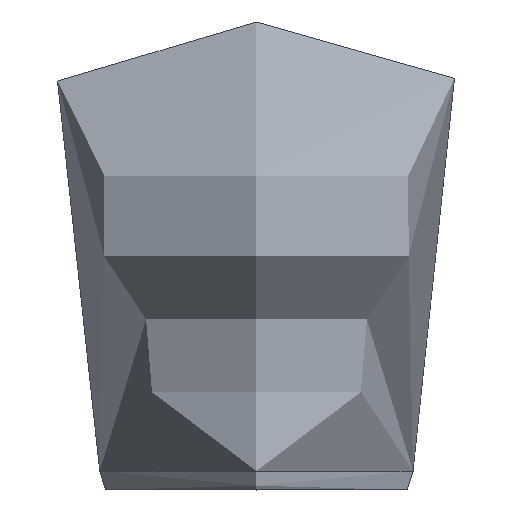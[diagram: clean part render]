
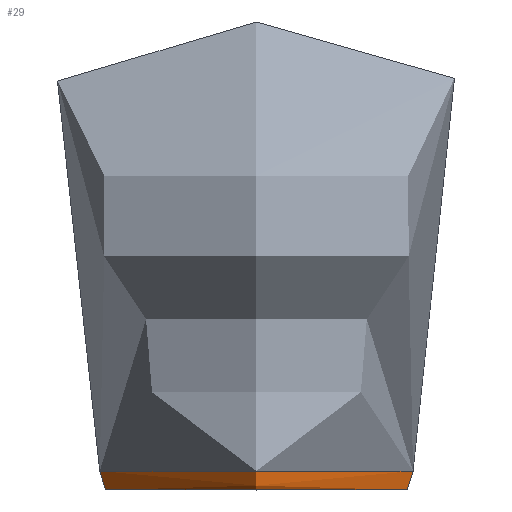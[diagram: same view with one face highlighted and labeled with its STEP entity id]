
A CAD part, front view. The second image highlights one B-rep face of the part: STEP entity #29.
In plain terms, the highlighted free-form (B-spline) face has degree [3, 2] with [4, 9] control points.
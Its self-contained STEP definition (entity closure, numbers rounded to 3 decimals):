
#29=ADVANCED_FACE('',(#37),#117,.T.);
#37=FACE_OUTER_BOUND('',#45,.T.);
#45=EDGE_LOOP('',(#66,#67,#68,#69));
#66=ORIENTED_EDGE('',*,*,#88,.F.);
#67=ORIENTED_EDGE('',*,*,#76,.T.);
#68=ORIENTED_EDGE('',*,*,#89,.F.);
#69=ORIENTED_EDGE('',*,*,#77,.T.);
#76=EDGE_CURVE('',#106,#104,#99,.T.);
#77=EDGE_CURVE('',#105,#107,#100,.T.);
#88=EDGE_CURVE('',#106,#107,#97,.T.);
#89=EDGE_CURVE('',#105,#104,#98,.T.);
#97=(
BOUNDED_CURVE()
B_SPLINE_CURVE(2,(#1540,#1541,#1542,#1543,#1544),.UNSPECIFIED.,.F.,.F.)
B_SPLINE_CURVE_WITH_KNOTS((3,2,3),(-127.179,-63.59,
0.),.UNSPECIFIED.)
CURVE()
GEOMETRIC_REPRESENTATION_ITEM()
RATIONAL_B_SPLINE_CURVE((1.,0.707,1.,0.707,1.))
REPRESENTATION_ITEM('')
);
#98=(
BOUNDED_CURVE()
B_SPLINE_CURVE(2,(#1545,#1546,#1547,#1548,#1549),.UNSPECIFIED.,.F.,.F.)
B_SPLINE_CURVE_WITH_KNOTS((3,2,3),(-122.516,-61.258,
0.),.UNSPECIFIED.)
CURVE()
GEOMETRIC_REPRESENTATION_ITEM()
RATIONAL_B_SPLINE_CURVE((1.,0.707,1.,0.707,1.))
REPRESENTATION_ITEM('')
);
#99=B_SPLINE_CURVE_WITH_KNOTS('',3,(#1306,#1307,#1308,#1309),
 .UNSPECIFIED.,.F.,.F.,(4,4),(-4.404,0.),.UNSPECIFIED.);
#100=B_SPLINE_CURVE_WITH_KNOTS('',3,(#1310,#1311,#1312,#1313),
 .UNSPECIFIED.,.F.,.F.,(4,4),(-4.404,0.),.UNSPECIFIED.);
#104=VERTEX_POINT('',#1298);
#105=VERTEX_POINT('',#1299);
#106=VERTEX_POINT('',#1300);
#107=VERTEX_POINT('',#1301);
#117=(
BOUNDED_SURFACE()
B_SPLINE_SURFACE(3,2,((#902,#903,#904,#905,#906,#907,#908,#909,#910),(#911,
#912,#913,#914,#915,#916,#917,#918,#919),(#920,#921,#922,#923,#924,#925,
#926,#927,#928),(#929,#930,#931,#932,#933,#934,#935,#936,#937)),
 .UNSPECIFIED.,.F.,.F.,.F.)
B_SPLINE_SURFACE_WITH_KNOTS((4,4),(3,2,2,2,3),(0.,1.),
(0.,49.307,98.615,147.922,197.229),
 .UNSPECIFIED.)
GEOMETRIC_REPRESENTATION_ITEM()
RATIONAL_B_SPLINE_SURFACE(((1.,0.707,1.,0.707,1.,
0.707,1.,0.707,1.),(1.,0.707,1.,0.707,
1.,0.707,1.,0.707,1.),(1.,0.707,1.,
0.707,1.,0.707,1.,0.707,1.),(1.,0.707,
1.,0.707,1.,0.707,1.,0.707,1.)))
REPRESENTATION_ITEM('')
SURFACE()
);
#902=CARTESIAN_POINT('',(0.,45.358,0.159));
#903=CARTESIAN_POINT('',(30.629,45.358,0.159));
#904=CARTESIAN_POINT('',(30.629,14.729,0.159));
#905=CARTESIAN_POINT('',(30.629,-15.9,0.159));
#906=CARTESIAN_POINT('',(0.,-15.9,0.159));
#907=CARTESIAN_POINT('',(-30.629,-15.9,0.159));
#908=CARTESIAN_POINT('',(-30.629,14.729,0.159));
#909=CARTESIAN_POINT('',(-30.629,45.358,0.159));
#910=CARTESIAN_POINT('',(0.,45.358,0.159));
#911=CARTESIAN_POINT('',(0.,46.306,0.836));
#912=CARTESIAN_POINT('',(31.576,46.306,0.836));
#913=CARTESIAN_POINT('',(31.576,14.729,0.836));
#914=CARTESIAN_POINT('',(31.576,-16.847,0.836));
#915=CARTESIAN_POINT('',(0.,-16.847,0.836));
#916=CARTESIAN_POINT('',(-31.576,-16.847,0.836));
#917=CARTESIAN_POINT('',(-31.576,14.729,0.836));
#918=CARTESIAN_POINT('',(-31.576,46.306,0.836));
#919=CARTESIAN_POINT('',(0.,46.306,0.836));
#920=CARTESIAN_POINT('',(0.,46.694,2.119));
#921=CARTESIAN_POINT('',(31.965,46.694,2.119));
#922=CARTESIAN_POINT('',(31.965,14.729,2.119));
#923=CARTESIAN_POINT('',(31.965,-17.235,2.119));
#924=CARTESIAN_POINT('',(0.,-17.235,2.119));
#925=CARTESIAN_POINT('',(-31.965,-17.235,2.119));
#926=CARTESIAN_POINT('',(-31.965,14.729,2.119));
#927=CARTESIAN_POINT('',(-31.965,46.694,2.119));
#928=CARTESIAN_POINT('',(0.,46.694,2.119));
#929=CARTESIAN_POINT('',(0.,46.524,4.01));
#930=CARTESIAN_POINT('',(31.795,46.524,4.01));
#931=CARTESIAN_POINT('',(31.795,14.729,4.01));
#932=CARTESIAN_POINT('',(31.795,-17.065,4.01));
#933=CARTESIAN_POINT('',(0.,-17.065,4.01));
#934=CARTESIAN_POINT('',(-31.795,-17.065,4.01));
#935=CARTESIAN_POINT('',(-31.795,14.729,4.01));
#936=CARTESIAN_POINT('',(-31.795,46.524,4.01));
#937=CARTESIAN_POINT('',(0.,46.524,4.01));
#1298=CARTESIAN_POINT('',(-30.629,14.729,0.159));
#1299=CARTESIAN_POINT('',(30.629,14.729,0.159));
#1300=CARTESIAN_POINT('',(-31.795,14.729,4.01));
#1301=CARTESIAN_POINT('',(31.795,14.729,4.01));
#1306=CARTESIAN_POINT('',(-31.795,14.729,4.01));
#1307=CARTESIAN_POINT('',(-31.965,14.729,2.119));
#1308=CARTESIAN_POINT('',(-31.576,14.729,0.836));
#1309=CARTESIAN_POINT('',(-30.629,14.729,0.159));
#1310=CARTESIAN_POINT('',(30.629,14.729,0.159));
#1311=CARTESIAN_POINT('',(31.576,14.729,0.836));
#1312=CARTESIAN_POINT('',(31.965,14.729,2.119));
#1313=CARTESIAN_POINT('',(31.795,14.729,4.01));
#1540=CARTESIAN_POINT('',(-31.795,14.729,4.01));
#1541=CARTESIAN_POINT('',(-31.795,-17.065,4.01));
#1542=CARTESIAN_POINT('',(0.,-17.065,4.01));
#1543=CARTESIAN_POINT('',(31.795,-17.065,4.01));
#1544=CARTESIAN_POINT('',(31.795,14.729,4.01));
#1545=CARTESIAN_POINT('',(30.629,14.729,0.159));
#1546=CARTESIAN_POINT('',(30.629,-15.9,0.159));
#1547=CARTESIAN_POINT('',(0.,-15.9,0.159));
#1548=CARTESIAN_POINT('',(-30.629,-15.9,0.159));
#1549=CARTESIAN_POINT('',(-30.629,14.729,0.159));
